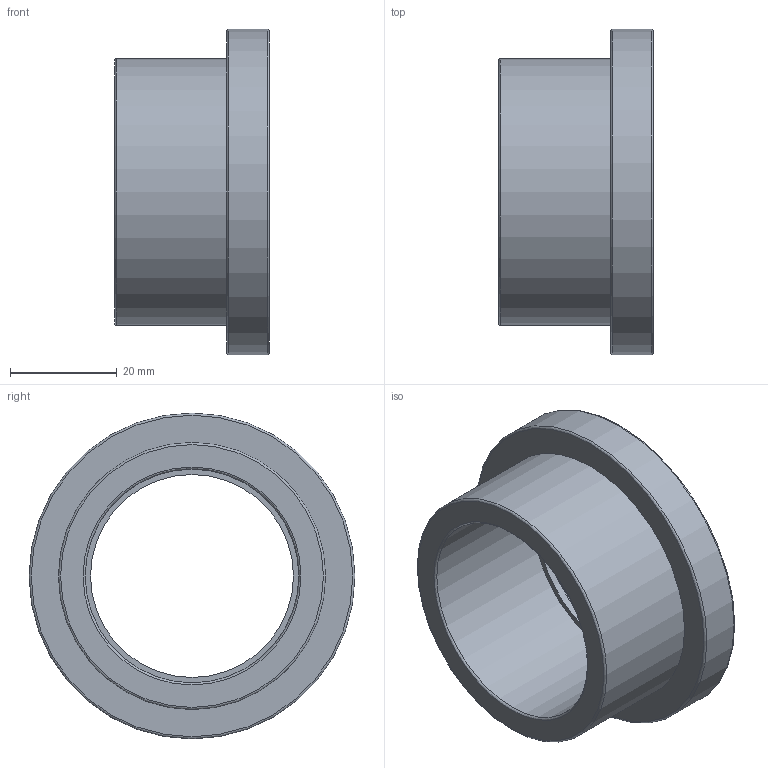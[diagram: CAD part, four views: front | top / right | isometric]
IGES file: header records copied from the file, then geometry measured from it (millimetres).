
Global section: file name: 055200040.ipt; native system: Autodesk Inventor 2015; preprocessor: unknown; author: KIM; date: 20171207.165741; units: millimetre
Bounding box: 29 x 61 x 61 mm (x, y, z)
Volume: 27479.8 mm3; surface area: 12421.8 mm2
Topology: 1 solids, 1 shells, 33 faces, 97 edges, 73 vertices
Faces by surface type: revolution 20, plane 9, cylinder 4
Full cylindrical faces by diameter (mm): 45.667 x1, 50 x1, 53.333 x1, 61 x1
